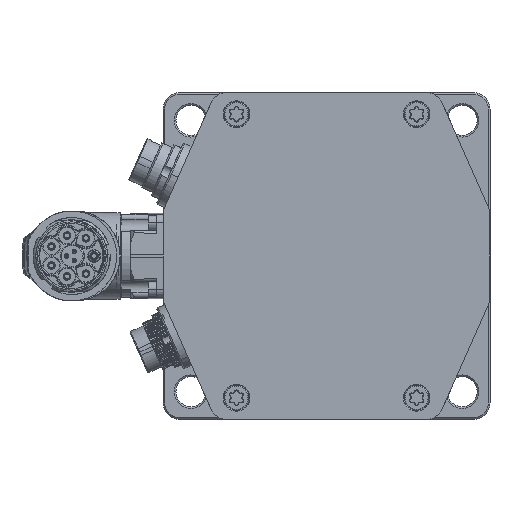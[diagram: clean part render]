
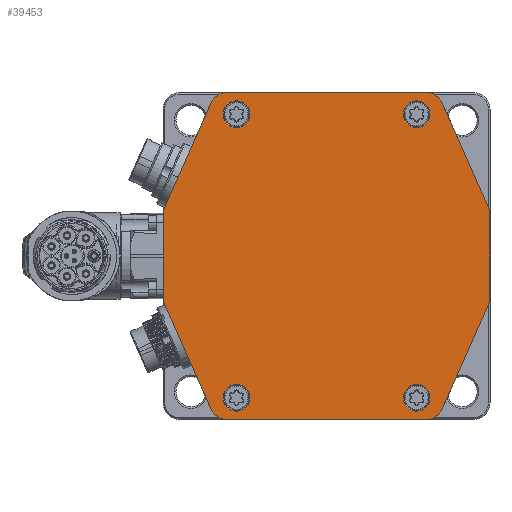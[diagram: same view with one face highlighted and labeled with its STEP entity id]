
A CAD part, left-side view. The second image highlights one B-rep face of the part: STEP entity #39453.
In plain terms, the highlighted planar face has unit normal (-1, 0, 0).
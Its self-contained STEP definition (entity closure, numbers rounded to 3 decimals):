
#408=CARTESIAN_POINT('',(-235.,-30.,-44.));
#409=DIRECTION('',(-1.,0.,0.));
#410=DIRECTION('',(0.,0.,-1.));
#411=AXIS2_PLACEMENT_3D('',#408,#409,#410);
#413=DIRECTION('',(0.,-1.,0.));
#414=VECTOR('',#413,60.);
#415=CARTESIAN_POINT('',(-235.,30.,-49.));
#416=LINE('',#415,#414);
#417=CARTESIAN_POINT('',(-235.,30.,-44.));
#418=DIRECTION('',(-1.,0.,0.));
#419=DIRECTION('',(0.,0.914,-0.405));
#420=AXIS2_PLACEMENT_3D('',#417,#418,#419);
#422=DIRECTION('',(0.,-0.405,-0.914));
#423=VECTOR('',#422,35.228);
#424=CARTESIAN_POINT('',(-235.,48.829,-13.809));
#425=LINE('',#424,#423);
#426=CARTESIAN_POINT('',(-235.,47.,-13.));
#427=DIRECTION('',(-1.,0.,0.));
#428=DIRECTION('',(0.,1.,0.));
#429=AXIS2_PLACEMENT_3D('',#426,#427,#428);
#431=DIRECTION('',(0.,0.,-1.));
#432=VECTOR('',#431,26.);
#433=CARTESIAN_POINT('',(-235.,49.,13.));
#434=LINE('',#433,#432);
#435=CARTESIAN_POINT('',(-235.,47.,13.));
#436=DIRECTION('',(-1.,0.,0.));
#437=DIRECTION('',(0.,0.914,0.405));
#438=AXIS2_PLACEMENT_3D('',#435,#436,#437);
#440=DIRECTION('',(0.,0.405,-0.914));
#441=VECTOR('',#440,35.228);
#442=CARTESIAN_POINT('',(-235.,34.572,46.023));
#443=LINE('',#442,#441);
#444=CARTESIAN_POINT('',(-235.,30.,44.));
#445=DIRECTION('',(-1.,0.,0.));
#446=DIRECTION('',(0.,0.,1.));
#447=AXIS2_PLACEMENT_3D('',#444,#445,#446);
#449=DIRECTION('',(0.,1.,0.));
#450=VECTOR('',#449,60.);
#451=CARTESIAN_POINT('',(-235.,-30.,49.));
#452=LINE('',#451,#450);
#453=CARTESIAN_POINT('',(-235.,-30.,44.));
#454=DIRECTION('',(-1.,0.,0.));
#455=DIRECTION('',(0.,-0.914,0.405));
#456=AXIS2_PLACEMENT_3D('',#453,#454,#455);
#458=DIRECTION('',(0.,0.405,0.914));
#459=VECTOR('',#458,35.228);
#460=CARTESIAN_POINT('',(-235.,-48.829,13.809));
#461=LINE('',#460,#459);
#462=CARTESIAN_POINT('',(-235.,-47.,13.));
#463=DIRECTION('',(-1.,0.,0.));
#464=DIRECTION('',(0.,-1.,0.));
#465=AXIS2_PLACEMENT_3D('',#462,#463,#464);
#467=DIRECTION('',(0.,0.,1.));
#468=VECTOR('',#467,26.);
#469=CARTESIAN_POINT('',(-235.,-49.,-13.));
#470=LINE('',#469,#468);
#471=CARTESIAN_POINT('',(-235.,-47.,-13.));
#472=DIRECTION('',(-1.,0.,0.));
#473=DIRECTION('',(0.,-0.914,-0.405));
#474=AXIS2_PLACEMENT_3D('',#471,#472,#473);
#476=DIRECTION('',(0.,-0.405,0.914));
#477=VECTOR('',#476,35.228);
#478=CARTESIAN_POINT('',(-235.,-34.572,-46.023));
#479=LINE('',#478,#477);
#480=CARTESIAN_POINT('',(-235.,27.,-42.5));
#481=DIRECTION('',(-1.,0.,0.));
#482=DIRECTION('',(0.,0.,-1.));
#483=AXIS2_PLACEMENT_3D('',#480,#481,#482);
#485=CARTESIAN_POINT('',(-235.,27.,-42.5));
#486=DIRECTION('',(-1.,0.,0.));
#487=DIRECTION('',(0.,0.,1.));
#488=AXIS2_PLACEMENT_3D('',#485,#486,#487);
#490=CARTESIAN_POINT('',(-235.,27.,42.5));
#491=DIRECTION('',(1.,0.,0.));
#492=DIRECTION('',(0.,0.,1.));
#493=AXIS2_PLACEMENT_3D('',#490,#491,#492);
#495=CARTESIAN_POINT('',(-235.,27.,42.5));
#496=DIRECTION('',(1.,0.,0.));
#497=DIRECTION('',(0.,0.,-1.));
#498=AXIS2_PLACEMENT_3D('',#495,#496,#497);
#500=CARTESIAN_POINT('',(-235.,-27.,-42.5));
#501=DIRECTION('',(1.,0.,0.));
#502=DIRECTION('',(0.,0.,-1.));
#503=AXIS2_PLACEMENT_3D('',#500,#501,#502);
#505=CARTESIAN_POINT('',(-235.,-27.,-42.5));
#506=DIRECTION('',(1.,0.,0.));
#507=DIRECTION('',(0.,0.,1.));
#508=AXIS2_PLACEMENT_3D('',#505,#506,#507);
#510=CARTESIAN_POINT('',(-235.,-27.,42.5));
#511=DIRECTION('',(-1.,0.,0.));
#512=DIRECTION('',(0.,0.,1.));
#513=AXIS2_PLACEMENT_3D('',#510,#511,#512);
#515=CARTESIAN_POINT('',(-235.,-27.,42.5));
#516=DIRECTION('',(-1.,0.,0.));
#517=DIRECTION('',(0.,0.,-1.));
#518=AXIS2_PLACEMENT_3D('',#515,#516,#517);
#37585=CARTESIAN_POINT('',(-235.,-30.,-49.));
#37586=CARTESIAN_POINT('',(-235.,-34.572,-46.023));
#37587=VERTEX_POINT('',#37585);
#37588=VERTEX_POINT('',#37586);
#37589=CARTESIAN_POINT('',(-235.,-48.829,-13.809));
#37590=VERTEX_POINT('',#37589);
#37591=CARTESIAN_POINT('',(-235.,-49.,-13.));
#37592=VERTEX_POINT('',#37591);
#37593=CARTESIAN_POINT('',(-235.,-49.,13.));
#37594=VERTEX_POINT('',#37593);
#37595=CARTESIAN_POINT('',(-235.,-48.829,13.809));
#37596=VERTEX_POINT('',#37595);
#37597=CARTESIAN_POINT('',(-235.,-34.572,46.023));
#37598=VERTEX_POINT('',#37597);
#37599=CARTESIAN_POINT('',(-235.,-30.,49.));
#37600=VERTEX_POINT('',#37599);
#37601=CARTESIAN_POINT('',(-235.,30.,49.));
#37602=VERTEX_POINT('',#37601);
#37603=CARTESIAN_POINT('',(-235.,34.572,46.023));
#37604=VERTEX_POINT('',#37603);
#37605=CARTESIAN_POINT('',(-235.,48.829,13.809));
#37606=VERTEX_POINT('',#37605);
#37607=CARTESIAN_POINT('',(-235.,49.,13.));
#37608=VERTEX_POINT('',#37607);
#37609=CARTESIAN_POINT('',(-235.,49.,-13.));
#37610=VERTEX_POINT('',#37609);
#37611=CARTESIAN_POINT('',(-235.,48.829,-13.809));
#37612=VERTEX_POINT('',#37611);
#37613=CARTESIAN_POINT('',(-235.,34.572,-46.023));
#37614=VERTEX_POINT('',#37613);
#37615=CARTESIAN_POINT('',(-235.,30.,-49.));
#37616=VERTEX_POINT('',#37615);
#37629=CARTESIAN_POINT('',(-235.,27.,-46.5));
#37630=CARTESIAN_POINT('',(-235.,27.,-38.5));
#37631=VERTEX_POINT('',#37629);
#37632=VERTEX_POINT('',#37630);
#37637=CARTESIAN_POINT('',(-235.,27.,46.5));
#37638=VERTEX_POINT('',#37637);
#37639=CARTESIAN_POINT('',(-235.,27.,38.5));
#37640=VERTEX_POINT('',#37639);
#37645=CARTESIAN_POINT('',(-235.,-27.,-46.5));
#37646=VERTEX_POINT('',#37645);
#37647=CARTESIAN_POINT('',(-235.,-27.,-38.5));
#37648=VERTEX_POINT('',#37647);
#37653=CARTESIAN_POINT('',(-235.,-27.,46.5));
#37654=VERTEX_POINT('',#37653);
#37655=CARTESIAN_POINT('',(-235.,-27.,38.5));
#37656=VERTEX_POINT('',#37655);
#39406=CARTESIAN_POINT('',(-235.,0.,0.));
#39407=DIRECTION('',(-1.,0.,0.));
#39408=DIRECTION('',(0.,1.,0.));
#39409=AXIS2_PLACEMENT_3D('',#39406,#39407,#39408);
#39410=PLANE('',#39409);
#39411=ORIENTED_EDGE('',*,*,#39190,.F.);
#39412=ORIENTED_EDGE('',*,*,#39205,.F.);
#39413=ORIENTED_EDGE('',*,*,#39219,.F.);
#39414=ORIENTED_EDGE('',*,*,#39233,.F.);
#39415=ORIENTED_EDGE('',*,*,#39247,.F.);
#39416=ORIENTED_EDGE('',*,*,#39261,.F.);
#39417=ORIENTED_EDGE('',*,*,#39275,.F.);
#39418=ORIENTED_EDGE('',*,*,#39289,.F.);
#39419=ORIENTED_EDGE('',*,*,#39303,.F.);
#39420=ORIENTED_EDGE('',*,*,#39317,.F.);
#39421=ORIENTED_EDGE('',*,*,#39331,.F.);
#39422=ORIENTED_EDGE('',*,*,#39345,.F.);
#39423=ORIENTED_EDGE('',*,*,#39359,.F.);
#39424=ORIENTED_EDGE('',*,*,#39373,.F.);
#39425=ORIENTED_EDGE('',*,*,#39387,.F.);
#39426=ORIENTED_EDGE('',*,*,#39400,.F.);
#39427=EDGE_LOOP('',(#39411,#39412,#39413,#39414,#39415,#39416,#39417,#39418,
#39419,#39420,#39421,#39422,#39423,#39424,#39425,#39426));
#39428=FACE_OUTER_BOUND('',#39427,.F.);
#39430=ORIENTED_EDGE('',*,*,#39429,.T.);
#39432=ORIENTED_EDGE('',*,*,#39431,.T.);
#39433=EDGE_LOOP('',(#39430,#39432));
#39434=FACE_BOUND('',#39433,.F.);
#39436=ORIENTED_EDGE('',*,*,#39435,.F.);
#39438=ORIENTED_EDGE('',*,*,#39437,.F.);
#39439=EDGE_LOOP('',(#39436,#39438));
#39440=FACE_BOUND('',#39439,.F.);
#39442=ORIENTED_EDGE('',*,*,#39441,.F.);
#39444=ORIENTED_EDGE('',*,*,#39443,.F.);
#39445=EDGE_LOOP('',(#39442,#39444));
#39446=FACE_BOUND('',#39445,.F.);
#39448=ORIENTED_EDGE('',*,*,#39447,.T.);
#39450=ORIENTED_EDGE('',*,*,#39449,.T.);
#39451=EDGE_LOOP('',(#39448,#39450));
#39452=FACE_BOUND('',#39451,.F.);
#39453=ADVANCED_FACE('',(#39428,#39434,#39440,#39446,#39452),#39410,.T.);
#412=CIRCLE('',#411,5.);
#421=CIRCLE('',#420,5.);
#430=CIRCLE('',#429,2.);
#439=CIRCLE('',#438,2.);
#448=CIRCLE('',#447,5.);
#457=CIRCLE('',#456,5.);
#466=CIRCLE('',#465,2.);
#475=CIRCLE('',#474,2.);
#484=CIRCLE('',#483,4.);
#489=CIRCLE('',#488,4.);
#494=CIRCLE('',#493,4.);
#499=CIRCLE('',#498,4.);
#504=CIRCLE('',#503,4.);
#509=CIRCLE('',#508,4.);
#514=CIRCLE('',#513,4.);
#519=CIRCLE('',#518,4.);
#39190=EDGE_CURVE('',#37587,#37588,#412,.T.);
#39205=EDGE_CURVE('',#37616,#37587,#416,.T.);
#39219=EDGE_CURVE('',#37614,#37616,#421,.T.);
#39233=EDGE_CURVE('',#37612,#37614,#425,.T.);
#39247=EDGE_CURVE('',#37610,#37612,#430,.T.);
#39261=EDGE_CURVE('',#37608,#37610,#434,.T.);
#39275=EDGE_CURVE('',#37606,#37608,#439,.T.);
#39289=EDGE_CURVE('',#37604,#37606,#443,.T.);
#39303=EDGE_CURVE('',#37602,#37604,#448,.T.);
#39317=EDGE_CURVE('',#37600,#37602,#452,.T.);
#39331=EDGE_CURVE('',#37598,#37600,#457,.T.);
#39345=EDGE_CURVE('',#37596,#37598,#461,.T.);
#39359=EDGE_CURVE('',#37594,#37596,#466,.T.);
#39373=EDGE_CURVE('',#37592,#37594,#470,.T.);
#39387=EDGE_CURVE('',#37590,#37592,#475,.T.);
#39400=EDGE_CURVE('',#37588,#37590,#479,.T.);
#39429=EDGE_CURVE('',#37631,#37632,#484,.T.);
#39431=EDGE_CURVE('',#37632,#37631,#489,.T.);
#39435=EDGE_CURVE('',#37638,#37640,#494,.T.);
#39437=EDGE_CURVE('',#37640,#37638,#499,.T.);
#39441=EDGE_CURVE('',#37646,#37648,#504,.T.);
#39443=EDGE_CURVE('',#37648,#37646,#509,.T.);
#39447=EDGE_CURVE('',#37654,#37656,#514,.T.);
#39449=EDGE_CURVE('',#37656,#37654,#519,.T.);
